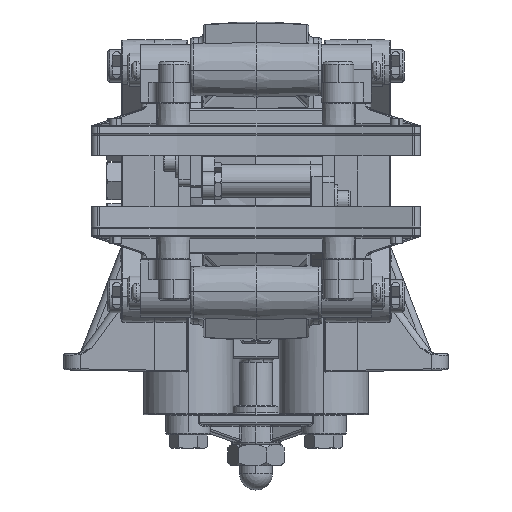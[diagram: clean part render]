
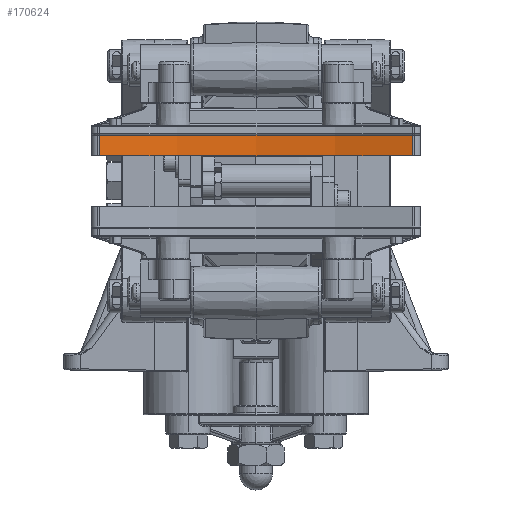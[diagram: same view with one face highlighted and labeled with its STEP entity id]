
A CAD part, left-side view. The second image highlights one B-rep face of the part: STEP entity #170624.
In plain terms, the highlighted cylindrical face has radius 203.2 mm (diameter 406.4 mm), a partial arc.
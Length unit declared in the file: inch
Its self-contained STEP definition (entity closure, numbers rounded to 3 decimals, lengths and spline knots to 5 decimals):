
#9513 = LINE ( 'NONE', #119479, #45231 ) ;
#10810 = EDGE_CURVE ( 'NONE', #103396, #72238, #91517, .T. ) ;
#18035 = CIRCLE ( 'NONE', #115246, 8. ) ;
#18842 = FACE_OUTER_BOUND ( 'NONE', #54191, .T. ) ;
#35494 = DIRECTION ( 'NONE',  ( 0., 0., 1. ) ) ;
#45231 = VECTOR ( 'NONE', #132853, 39.37008 ) ;
#51820 = CARTESIAN_POINT ( 'NONE',  ( -2.35923, 2.37037, 0.385 ) ) ;
#54191 = EDGE_LOOP ( 'NONE', ( #146681, #149932, #151067, #151845 ) ) ;
#54739 = DIRECTION ( 'NONE',  ( 0., 0., -1. ) ) ;
#66821 = VERTEX_POINT ( 'NONE', #143244 ) ;
#72238 = VERTEX_POINT ( 'NONE', #51820 ) ;
#75444 = CARTESIAN_POINT ( 'NONE',  ( -2.35923, -2.37037, 0.698 ) ) ;
#83316 = LINE ( 'NONE', #163308, #154427 ) ;
#84193 = AXIS2_PLACEMENT_3D ( 'NONE', #121909, #54739, #95530 ) ;
#84892 = CARTESIAN_POINT ( 'NONE',  ( -2.35923, -2.37037, 0.385 ) ) ;
#91517 = CIRCLE ( 'NONE', #172014, 8. ) ;
#95530 = DIRECTION ( 'NONE',  ( -1., 0., 0. ) ) ;
#96158 = DIRECTION ( 'NONE',  ( 0., 0., -1. ) ) ;
#103396 = VERTEX_POINT ( 'NONE', #84892 ) ;
#104512 = CYLINDRICAL_SURFACE ( 'NONE', #84193, 8. ) ;
#111943 = EDGE_CURVE ( 'NONE', #169821, #66821, #18035, .T. ) ;
#115246 = AXIS2_PLACEMENT_3D ( 'NONE', #115478, #35494, #128938 ) ;
#115478 = CARTESIAN_POINT ( 'NONE',  ( -10., 0., 0.698 ) ) ;
#119479 = CARTESIAN_POINT ( 'NONE',  ( -2.35923, 2.37037, 0.698 ) ) ;
#121909 = CARTESIAN_POINT ( 'NONE',  ( -10., 0., 0.698 ) ) ;
#128938 = DIRECTION ( 'NONE',  ( 1., 0., 0. ) ) ;
#132853 = DIRECTION ( 'NONE',  ( 0., 0., -1. ) ) ;
#132909 = EDGE_CURVE ( 'NONE', #169821, #103396, #83316, .T. ) ;
#138645 = DIRECTION ( 'NONE',  ( 1., 0., 0. ) ) ;
#139237 = DIRECTION ( 'NONE',  ( 0., 0., 1. ) ) ;
#139389 = CARTESIAN_POINT ( 'NONE',  ( -10., 0., 0.385 ) ) ;
#143244 = CARTESIAN_POINT ( 'NONE',  ( -2.35923, 2.37037, 0.698 ) ) ;
#146681 = ORIENTED_EDGE ( 'NONE', *, *, #10810, .F. ) ;
#149932 = ORIENTED_EDGE ( 'NONE', *, *, #132909, .F. ) ;
#151067 = ORIENTED_EDGE ( 'NONE', *, *, #111943, .T. ) ;
#151845 = ORIENTED_EDGE ( 'NONE', *, *, #157754, .T. ) ;
#154427 = VECTOR ( 'NONE', #96158, 39.37008 ) ;
#157754 = EDGE_CURVE ( 'NONE', #66821, #72238, #9513, .T. ) ;
#163308 = CARTESIAN_POINT ( 'NONE',  ( -2.35923, -2.37037, 0.698 ) ) ;
#169821 = VERTEX_POINT ( 'NONE', #75444 ) ;
#170624 = ADVANCED_FACE ( 'NONE', ( #18842 ), #104512, .F. ) ;
#172014 = AXIS2_PLACEMENT_3D ( 'NONE', #139389, #139237, #138645 ) ;
